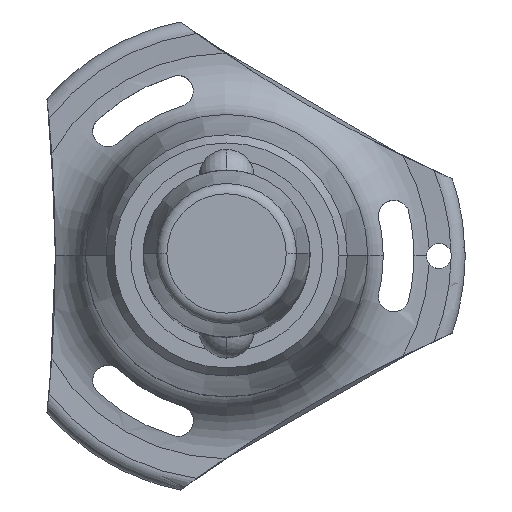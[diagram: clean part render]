
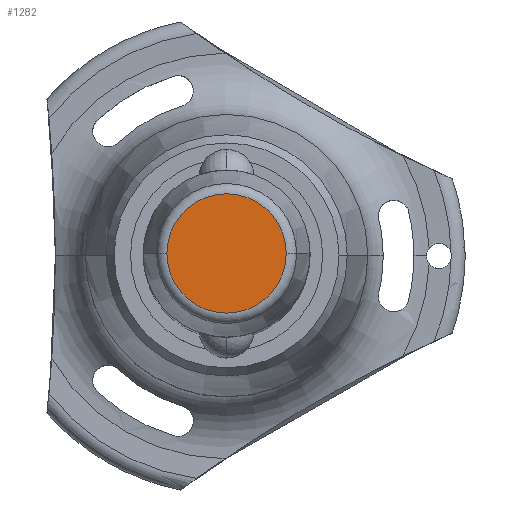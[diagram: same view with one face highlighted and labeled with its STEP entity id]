
A CAD part, top view. The second image highlights one B-rep face of the part: STEP entity #1282.
In plain terms, the highlighted planar face has unit normal (0, 0, 1).
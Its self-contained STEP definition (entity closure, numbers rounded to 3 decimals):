
#108 = CARTESIAN_POINT ( 'NONE',  ( 0., 0., 20.5 ) ) ;
#203 = CIRCLE ( 'NONE', #1870, 7.144 ) ;
#386 = CARTESIAN_POINT ( 'NONE',  ( 0., 0., 20.5 ) ) ;
#542 = CARTESIAN_POINT ( 'NONE',  ( 0., 0., 20.5 ) ) ;
#633 = CIRCLE ( 'NONE', #724, 7.144 ) ;
#724 = AXIS2_PLACEMENT_3D ( 'NONE', #386, #2891, #1313 ) ;
#764 = DIRECTION ( 'NONE',  ( 0., 0., 1. ) ) ;
#804 = AXIS2_PLACEMENT_3D ( 'NONE', #542, #2353, #1248 ) ;
#1009 = DIRECTION ( 'NONE',  ( 1., 0., 0. ) ) ;
#1203 = ORIENTED_EDGE ( 'NONE', *, *, #2183, .T. ) ;
#1248 = DIRECTION ( 'NONE',  ( 1., 0., 0. ) ) ;
#1282 = ADVANCED_FACE ( 'NONE', ( #1910 ), #1474, .T. ) ;
#1292 = EDGE_CURVE ( 'NONE', #1454, #2850, #203, .T. ) ;
#1313 = DIRECTION ( 'NONE',  ( 1., 0., 0. ) ) ;
#1369 = ORIENTED_EDGE ( 'NONE', *, *, #1292, .T. ) ;
#1454 = VERTEX_POINT ( 'NONE', #1725 ) ;
#1474 = PLANE ( 'NONE',  #804 ) ;
#1541 = CARTESIAN_POINT ( 'NONE',  ( -7.144, 0., 20.5 ) ) ;
#1725 = CARTESIAN_POINT ( 'NONE',  ( 7.144, 0., 20.5 ) ) ;
#1870 = AXIS2_PLACEMENT_3D ( 'NONE', #108, #764, #1009 ) ;
#1910 = FACE_OUTER_BOUND ( 'NONE', #2653, .T. ) ;
#2183 = EDGE_CURVE ( 'NONE', #2850, #1454, #633, .T. ) ;
#2353 = DIRECTION ( 'NONE',  ( 0., 0., 1. ) ) ;
#2653 = EDGE_LOOP ( 'NONE', ( #1369, #1203 ) ) ;
#2850 = VERTEX_POINT ( 'NONE', #1541 ) ;
#2891 = DIRECTION ( 'NONE',  ( 0., 0., 1. ) ) ;
